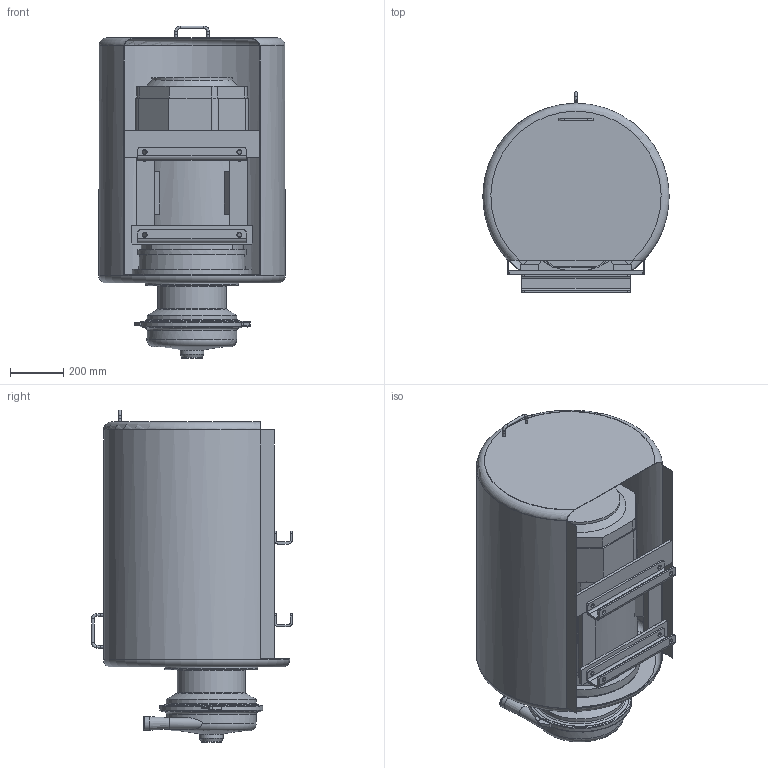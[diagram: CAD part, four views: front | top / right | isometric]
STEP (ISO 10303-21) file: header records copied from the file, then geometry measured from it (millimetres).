
FILE_DESCRIPTION((''),'2;1');
FILE_NAME('T:\_Engineering\Read Only\Products\Pumps\_W+_MODELS\# Pump_models\W+_models_assembly\W+_models_assembly\IPT\W+80-80_225(SMA2(D)-SMB2(D))_BRACKET-A_SRD_Shrinkwrap.ipt.step','2014-06-10T02:13:29',(''),(''),'Autodesk Inventor 2012','Autodesk Inventor 2012','');
FILE_SCHEMA(('CONFIG_CONTROL_DESIGN'));
Length unit declared in the file: millimetre
Products named in the file (1): W+80-80_225(SMA2(D)-SMB2(D))_BRACKET-A_SRD_Shrinkwrap
Bounding box: 700 x 755 x 1248 mm (x, y, z)
Volume: 134594591.7 mm3; surface area: 7165320.2 mm2
Topology: 2 solids, 4 shells, 361 faces, 939 edges, 600 vertices
Faces by surface type: plane 197, cylinder 109, cone 32, torus 23
Full cylindrical faces by diameter (mm): 4.917 x4, 7 x4, 10 x7, 15 x4, 16.5 x4, 18 x4, 18.5 x8, 42.6 x1, 51.6 x1, 55 x1, 72.8 x1, 76.6 x1, 89 x1, 242 x1, 250 x1, 256 x1, 302.154 x1, 320 x1, 327 x1, 330 x1, 337 x1, 338 x1, 350 x1, 410 x1, 450 x1, 697 x1, 700 x1
Entity records: 11339 total; most frequent: CARTESIAN_POINT 2467, DIRECTION 1776, ORIENTED_EDGE 1638, EDGE_CURVE 819, AXIS2_PLACEMENT_3D 659, VERTEX_POINT 570, EDGE_LOOP 511, VECTOR 458
